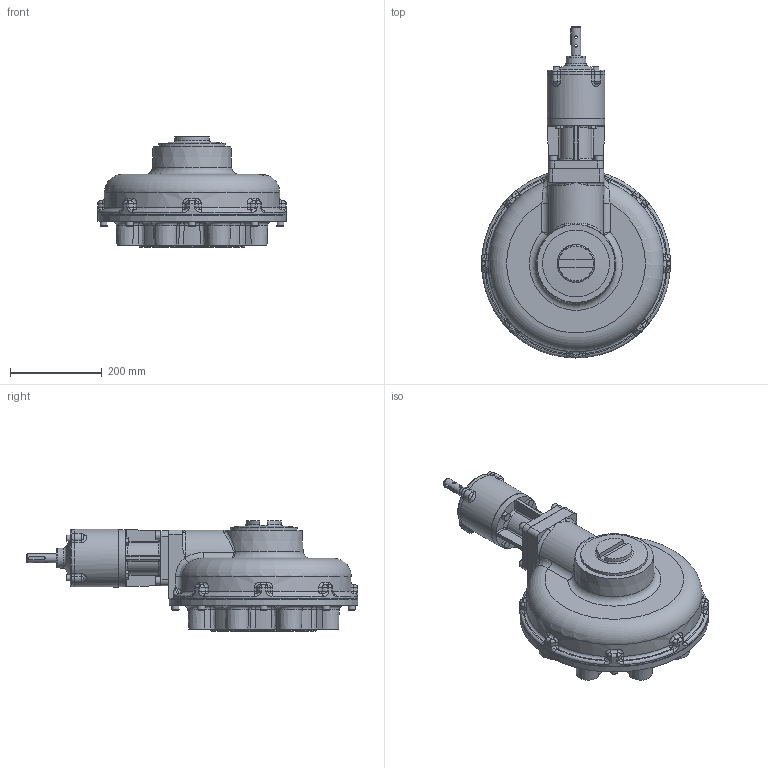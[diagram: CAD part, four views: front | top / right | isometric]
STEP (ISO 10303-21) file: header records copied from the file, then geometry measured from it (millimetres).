
FILE_DESCRIPTION( ( 'Unknown' ), '1' );
FILE_NAME( 'X:/CURRENT/PUB/Hob/HOB-2014/HOB-MPR/HOB-MPR-STP_FILES/PUB-HOB10MPR6-40.5-MAN-F30.stp', 'Unknown', ( 'Unknown' ), ( 'Unknown' ), 'PSStep 16.0.42', 'Unknown', ' ' );
FILE_SCHEMA( ( 'AUTOMOTIVE_DESIGN { 1 0 10303 214 1 1 1 1 }' ) );
Length unit declared in the file: millimetre
Products named in the file (32): 1; 2; trelleborg_trea00200-n7mm_b5c67wtxxcj74kwnwb2box077_01; 3; 4; 5; 6; 7; 8; 9; 10; 11; 12; 13; 14; 15; 16; 17; 18; 19; 20; 21; 22; 23; 24; 25; 26; 27; 28; 29; 30; 31
Bounding box: 412 x 724.5 x 241.2 mm (x, y, z)
Surface area: 1534548.5 mm2 (no closed solid volume)
Topology: 0 solids, 2446 shells, 2446 faces, 12189 edges, 11745 vertices
Faces by surface type: cylinder 804, plane 758, cone 394, torus 263, bspline 155, sphere 72
Full cylindrical faces by diameter (mm): 6 x2, 6.647 x8, 8 x4, 8.376 x8, 8.5 x12, 10 x12, 10.2 x4, 10.5 x12, 12 x4, 12.5 x4, 13.27 x4, 16 x8, 17.294 x16, 18 x4, 19 x1, 20 x4, 22.098 x1, 23 x1, 25 x1, 29 x1, 29.583 x1, 30 x3, 50.2 x2, 55.11 x1, 58 x1, 66.675 x1, 70.05 x1, 70.5 x1, 75 x1, 82 x1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
Entity records: 194903 total; most frequent: CARTESIAN_POINT 86843, DIRECTION 19210, VERTEX_POINT 11620, ORIENTED_EDGE 11588, EDGE_CURVE 11588, AXIS2_PLACEMENT_3D 7369, CIRCLE 5018, LINE 4472
